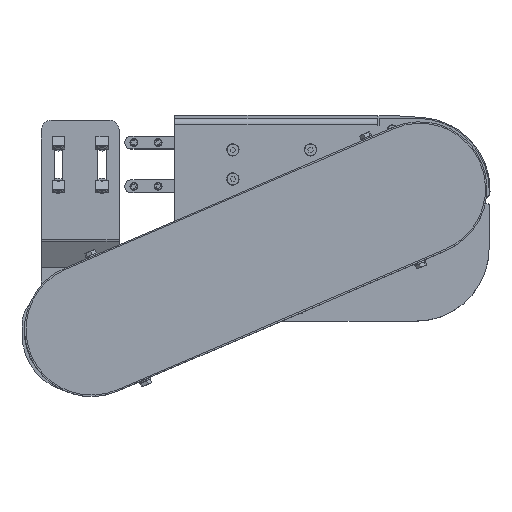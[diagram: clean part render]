
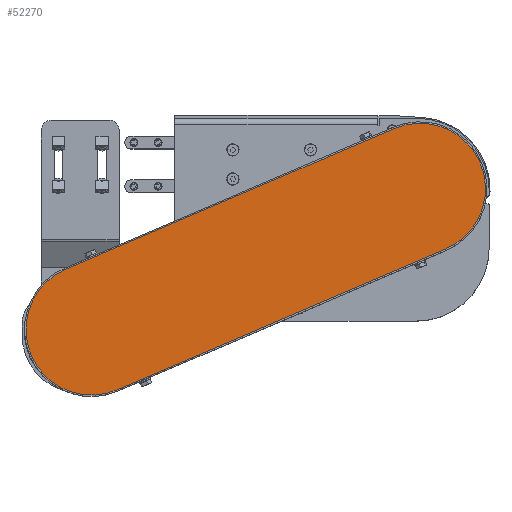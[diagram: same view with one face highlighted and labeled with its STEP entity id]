
A CAD part, top view. The second image highlights one B-rep face of the part: STEP entity #52270.
In plain terms, the highlighted planar face has unit normal (0, 0, 1).
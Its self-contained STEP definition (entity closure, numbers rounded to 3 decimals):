
#339 = DIRECTION ( 'NONE',  ( 1., 0., 0. ) ) ;
#1959 = EDGE_CURVE ( 'NONE', #11119, #44806, #66172, .T. ) ;
#2029 = AXIS2_PLACEMENT_3D ( 'NONE', #17216, #57069, #22942 ) ;
#4016 = CARTESIAN_POINT ( 'NONE',  ( 184., -67.5, 2. ) ) ;
#11119 = VERTEX_POINT ( 'NONE', #45926 ) ;
#11122 = EDGE_CURVE ( 'NONE', #33937, #58429, #12339, .T. ) ;
#11530 = CARTESIAN_POINT ( 'NONE',  ( -184., 0., 2. ) ) ;
#12022 = ORIENTED_EDGE ( 'NONE', *, *, #1959, .T. ) ;
#12339 = LINE ( 'NONE', #67579, #71132 ) ;
#17174 = CIRCLE ( 'NONE', #61823, 67.5 ) ;
#17216 = CARTESIAN_POINT ( 'NONE',  ( -184., 0., 2. ) ) ;
#19802 = AXIS2_PLACEMENT_3D ( 'NONE', #11530, #34409, #339 ) ;
#20245 = VERTEX_POINT ( 'NONE', #4016 ) ;
#21315 = CARTESIAN_POINT ( 'NONE',  ( -184., -67.5, 2. ) ) ;
#21597 = DIRECTION ( 'NONE',  ( 1., 0., 0. ) ) ;
#22142 = AXIS2_PLACEMENT_3D ( 'NONE', #27924, #67802, #33660 ) ;
#22814 = ORIENTED_EDGE ( 'NONE', *, *, #11122, .T. ) ;
#22942 = DIRECTION ( 'NONE',  ( 1., 0., 0. ) ) ;
#23162 = EDGE_CURVE ( 'NONE', #20245, #33937, #17174, .T. ) ;
#24047 = CARTESIAN_POINT ( 'NONE',  ( -184., 67.5, 2. ) ) ;
#27924 = CARTESIAN_POINT ( 'NONE',  ( -184., 0., 2. ) ) ;
#30209 = CARTESIAN_POINT ( 'NONE',  ( 184., 67.5, 2. ) ) ;
#31314 = EDGE_CURVE ( 'NONE', #58429, #11119, #37507, .T. ) ;
#33371 = FACE_OUTER_BOUND ( 'NONE', #71839, .T. ) ;
#33457 = DIRECTION ( 'NONE',  ( 0., 0., 1. ) ) ;
#33660 = DIRECTION ( 'NONE',  ( 1., 0., 0. ) ) ;
#33937 = VERTEX_POINT ( 'NONE', #30209 ) ;
#34409 = DIRECTION ( 'NONE',  ( 0., 0., 1. ) ) ;
#37507 = CIRCLE ( 'NONE', #2029, 67.5 ) ;
#44806 = VERTEX_POINT ( 'NONE', #21315 ) ;
#45926 = CARTESIAN_POINT ( 'NONE',  ( -251.5, 0., 2. ) ) ;
#45955 = VECTOR ( 'NONE', #21597, 1000. ) ;
#51652 = DIRECTION ( 'NONE',  ( -1., 0., 0. ) ) ;
#52270 = ADVANCED_FACE ( 'NONE', ( #33371 ), #57084, .T. ) ;
#55727 = CARTESIAN_POINT ( 'NONE',  ( -184., -67.5, 2. ) ) ;
#57069 = DIRECTION ( 'NONE',  ( 0., 0., 1. ) ) ;
#57084 = PLANE ( 'NONE',  #19802 ) ;
#58429 = VERTEX_POINT ( 'NONE', #24047 ) ;
#61068 = LINE ( 'NONE', #55727, #45955 ) ;
#61823 = AXIS2_PLACEMENT_3D ( 'NONE', #67621, #33457, #73314 ) ;
#66172 = CIRCLE ( 'NONE', #22142, 67.5 ) ;
#67579 = CARTESIAN_POINT ( 'NONE',  ( -184., 67.5, 2. ) ) ;
#67621 = CARTESIAN_POINT ( 'NONE',  ( 184., 0., 2. ) ) ;
#67802 = DIRECTION ( 'NONE',  ( 0., 0., 1. ) ) ;
#68214 = ORIENTED_EDGE ( 'NONE', *, *, #23162, .T. ) ;
#69100 = ORIENTED_EDGE ( 'NONE', *, *, #70113, .T. ) ;
#70113 = EDGE_CURVE ( 'NONE', #44806, #20245, #61068, .T. ) ;
#71132 = VECTOR ( 'NONE', #51652, 1000. ) ;
#71839 = EDGE_LOOP ( 'NONE', ( #72551, #12022, #69100, #68214, #22814 ) ) ;
#72551 = ORIENTED_EDGE ( 'NONE', *, *, #31314, .T. ) ;
#73314 = DIRECTION ( 'NONE',  ( 1., 0., 0. ) ) ;
